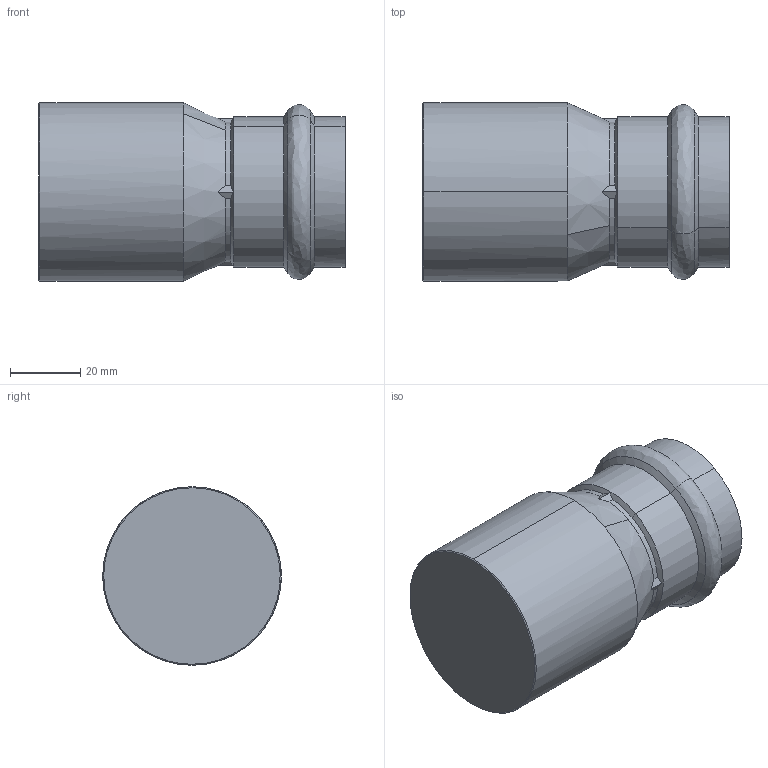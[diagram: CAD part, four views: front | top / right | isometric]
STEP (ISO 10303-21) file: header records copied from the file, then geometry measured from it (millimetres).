
FILE_DESCRIPTION(('STEP AP214'),'1');
FILE_NAME('pim0004355.stp','2015-04-30T10:49:55',('Cad-Pim'),('TransMagic, Inc.'),'TMR11sp0','TransMagic R11',' ');
FILE_SCHEMA(('AUTOMOTIVE_DESIGN'));
Length unit declared in the file: millimetre
Products named in the file (1): pim0004355
Bounding box: 87 x 50.74 x 50.74 mm (x, y, z)
Volume: 118518 mm3; surface area: 20772.6 mm2
Topology: 1 solids, 1 shells, 39 faces, 113 edges, 77 vertices
Faces by surface type: bspline 19, cylinder 10, cone 10
Entity records: 1842 total; most frequent: CARTESIAN_POINT 657, ORIENTED_EDGE 226, DIRECTION 118, EDGE_CURVE 113, VERTEX_POINT 77, AXIS2_PLACEMENT_3D 50, STYLED_ITEM 40, PRESENTATION_STYLE_ASSIGNMENT 40
